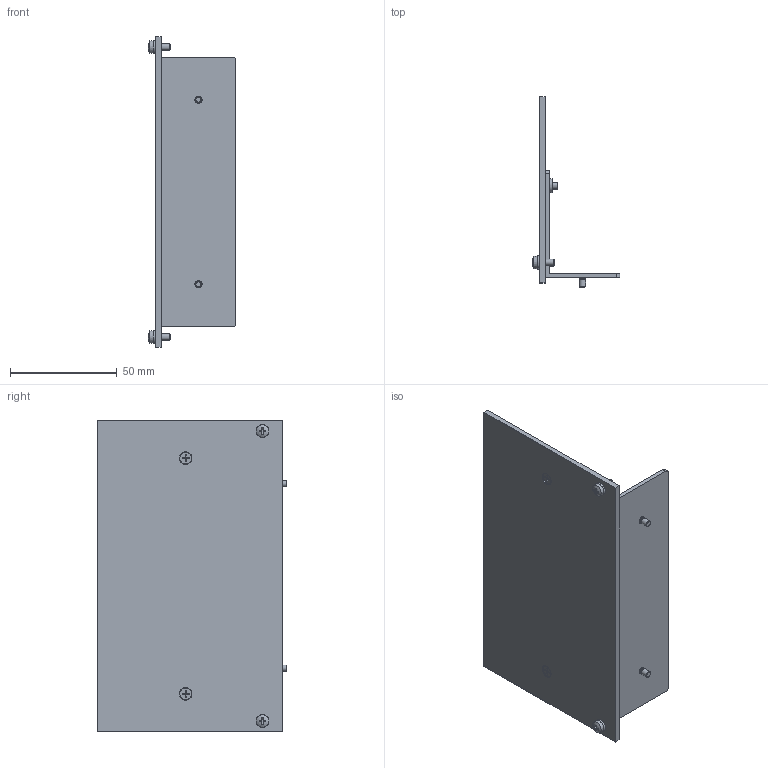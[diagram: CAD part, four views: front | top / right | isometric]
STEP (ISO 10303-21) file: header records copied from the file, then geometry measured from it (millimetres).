
FILE_DESCRIPTION(/* description */ ('19" Blind Plate 2U','CAx-IF Rec.Pracs.---Representation and Presentation of Product Manufacturing Information (PMI)---4.0---2014-10-13'),/* implementation_level */ '2;1');
FILE_NAME(/* name */ 'E:\CAMTEC_2020_Pack and Go\Subrack_2U\2201009001CA.stp',/* time_stamp */ '2020-09-21T15:44:20+02:00',/* author */ ('rryba'),/* organization */ (''),/* preprocessor_version */ 'ST-DEVELOPER v18.1',/* originating_system */ 'Autodesk Inventor 2021',/* authorisation */ '');
FILE_SCHEMA (('AP242_MANAGED_MODEL_BASED_3D_ENGINEERING_MIM_LF { 1 0 10303 442 1 1 4 }'));
Length unit declared in the file: millimetre
Products named in the file (8): 2201009001CA; 2051064002; 2021073001; 2081101001; 2530279; 2530320; 2530245; 2530396
Assembly tree (11 placements, depth 2):
  2201009001CA
    2051064002
    2021073001
    2081101001
    2530279  x2
    2530320  x2
    2530245  x2
    2530396  x2
Bounding box: 41.04 x 88.95 x 145.6 mm (x, y, z)
Volume: 54239.1 mm3; surface area: 74807.4 mm2
Topology: 13 solids, 13 shells, 262 faces, 898 edges, 877 vertices
Faces by surface type: plane 108, cone 82, cylinder 46, torus 24, sphere 2
Full cylindrical faces by diameter (mm): 2.459 x2, 2.693 x4, 2.75 x2, 3 x8, 3.4 x4, 3.8 x4, 4.2 x4, 5.5 x4, 5.9 x6, 6 x2, 6.3 x2
Entity records: 6218 total; most frequent: CARTESIAN_POINT 1422, DIRECTION 957, ORIENTED_EDGE 800, EDGE_CURVE 400, AXIS2_PLACEMENT_3D 392, VERTEX_POINT 263, CIRCLE 209, EDGE_LOOP 195
